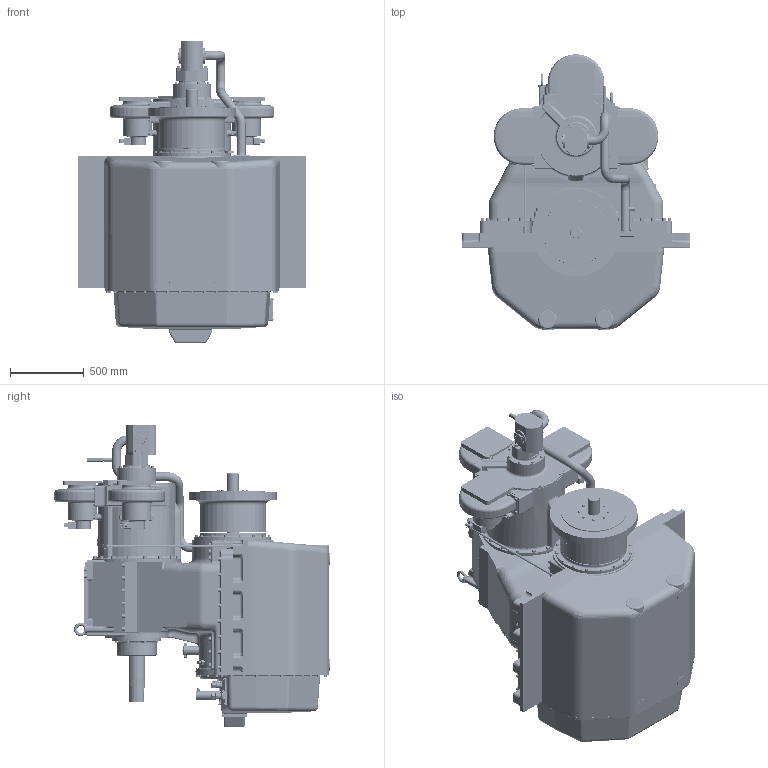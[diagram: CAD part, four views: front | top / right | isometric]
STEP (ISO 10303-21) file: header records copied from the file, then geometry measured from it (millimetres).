
FILE_DESCRIPTION((''),'2;1');
FILE_NAME('ASSEMBLY_580-034_1226_SW0001','2025-04-11T09:50:11',('hve'),('ME Production'),'CREO PARAMETRIC BY PTC INC, 2024401','CREO PARAMETRIC BY PTC INC, 2024401','');
FILE_SCHEMA(('CONFIG_CONTROL_DESIGN'));
Products named in the file (1): ASSEMBLY_580-034_1226_SW0001
Bounding box: 1544 x 1861.5 x 2044.5 mm (x, y, z)
Surface area: 19807208.3 mm2 (no closed solid volume)
Topology: 0 solids, 772 shells, 4717 faces, 13958 edges, 9732 vertices
Faces by surface type: cylinder 2027, plane 1653, bspline 329, torus 311, cone 242, sphere 96, extrusion 59
Entity records: 176553 total; most frequent: CARTESIAN_POINT 55748, DIRECTION 25928, ORIENTED_EDGE 22095, EDGE_CURVE 13942, AXIS2_PLACEMENT_3D 9788, VERTEX_POINT 9732, VECTOR 6352, LINE 6293
